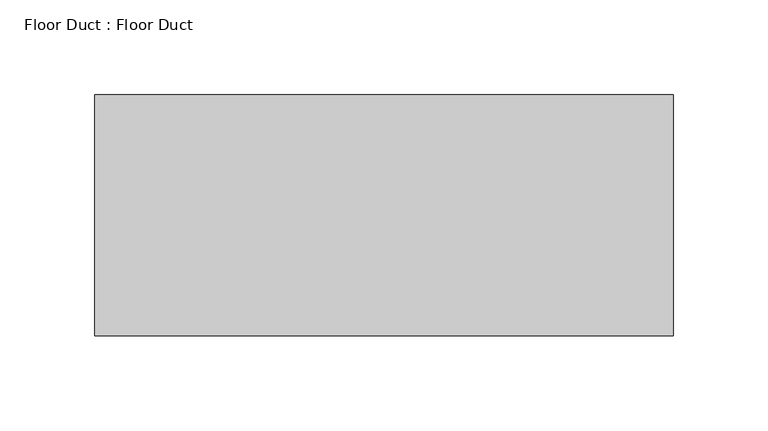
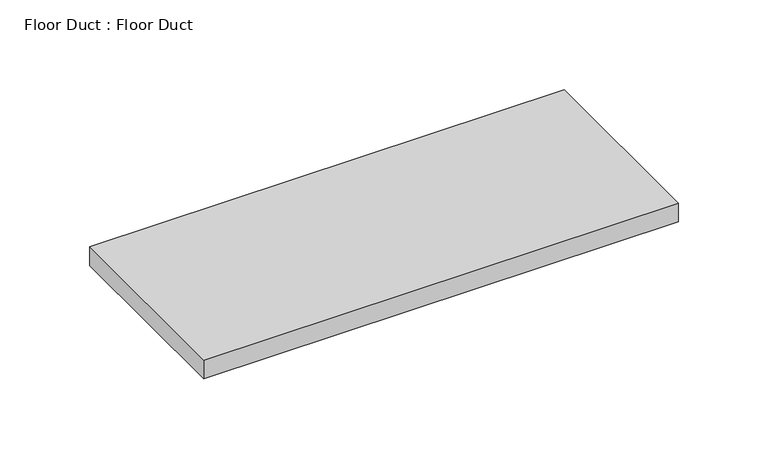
"""IFC4 building model written with IfcOpenShell, lengths in millimetres: proxy geometry, Floor Duct : Floor Duct."""

from ifc_helpers import new_model, si_unit, origin, origin_with_axes, place, context, project, spatial, polyline, outline, extrude, source, transform, mapped, element, save


def floor_duct_floor_duct_5fbc8d91(model_context):
    return source(origin(), model_context, "Body", "SweptSolid", [
        extrude(outline(polyline([(152.4, 63.5), (152.4, -63.5), (-152.4, -63.5), (-152.4, 63.5), (152.4, 63.5)])), origin_with_axes(), (0.0, 0.0, 1.0), 12.7),
    ])


if __name__ == "__main__":
    model = new_model("IFC4")
    model_context = context("Model", 3, world=origin())
    ifc_project = project(units=[si_unit("LENGTHUNIT", "METRE", prefix="MILLI")], contexts=[model_context])
    site = spatial("IfcSite", under=ifc_project)
    building = spatial("IfcBuilding", under=site)
    placement = place(None, origin())
    floor_duct_floor_duct_shape = floor_duct_floor_duct_5fbc8d91(model_context)
    element("IfcBuildingElementProxy", 1, Name="Floor Duct : Floor Duct", ObjectType="Floor Duct : Floor Duct", at=placement, inside=building, context=model_context, shape_type="MappedRepresentation", body=[
        mapped(floor_duct_floor_duct_shape, transform((0.0, 0.0, 0.0), x_axis=(1.0, 0.0, 0.0), y_axis=(0.0, 1.0, 0.0), z_axis=(0.0, 0.0, 1.0))),
    ])
    save(model, "model.ifc")
